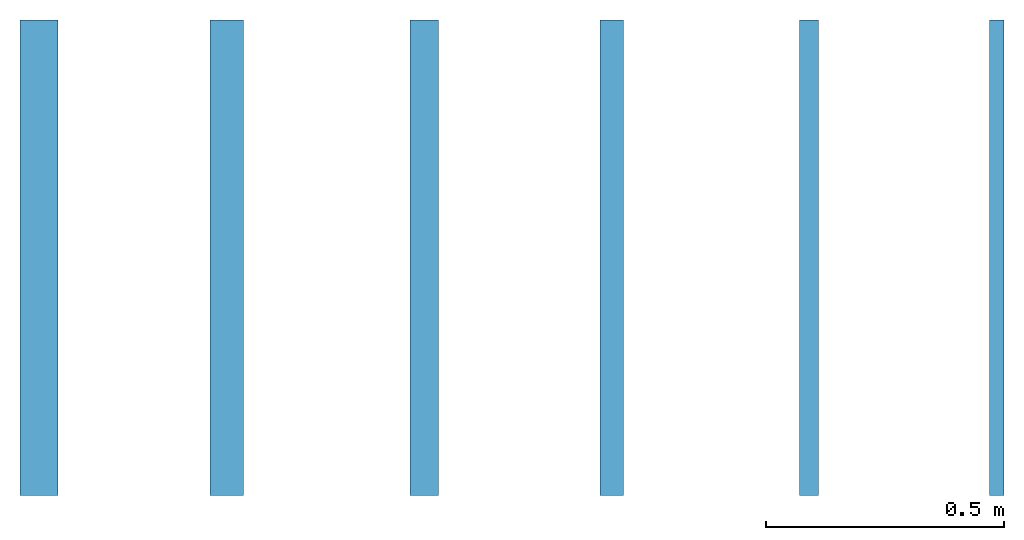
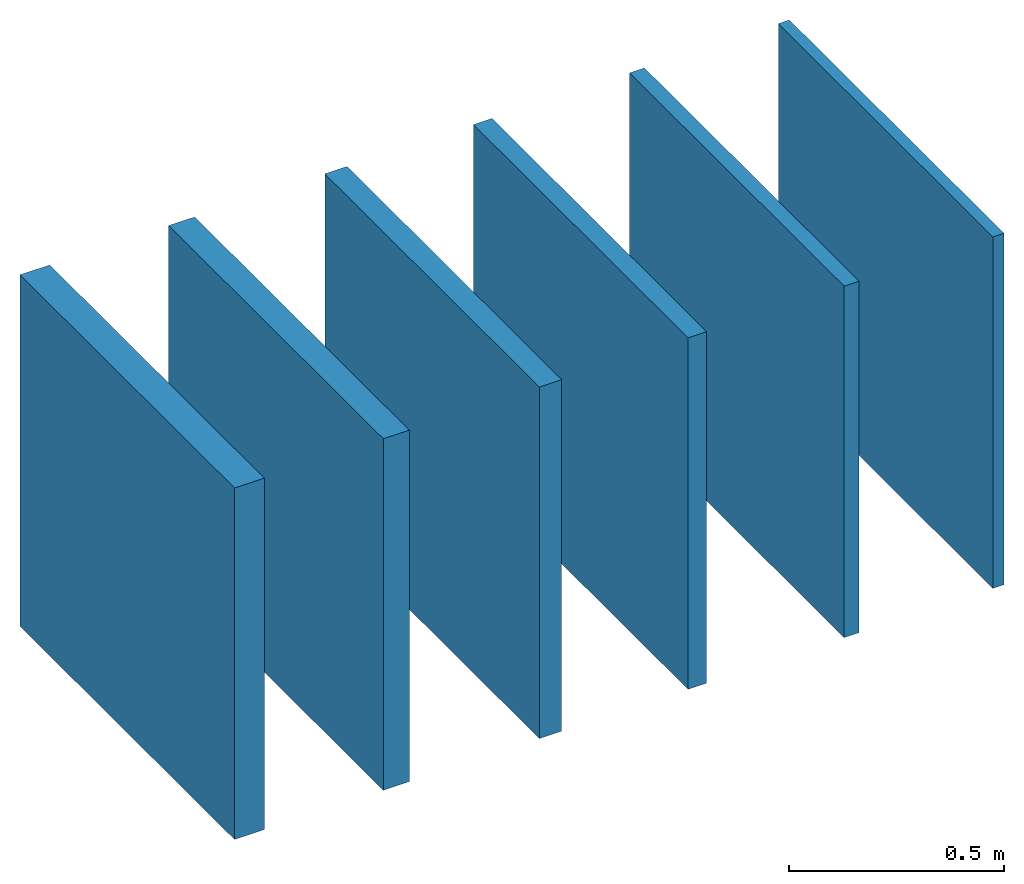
# One storey: 6 walls.
"""IFC2X3 building model written with IfcOpenShell, lengths in metres."""

from ifc_helpers import new_model, entity, si_unit, converted_unit, derived_unit, direction, frame, frame_2d, origin, place, context, subcontext, project, spatial, rectangle, extrude, material, layer, layer_set, layer_usage, type_object, element, save


model = new_model("IFC2X3")

# Units and contexts
model_context = context("Model", 3, precision=1e-05, world=origin(), true_north=direction((6.12303176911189e-17, 1.0)))
body_context = subcontext(model_context, "Body", "Model", "MODEL_VIEW")
ifc_project = project(units=[si_unit("LENGTHUNIT", "METRE"), si_unit("AREAUNIT", "SQUARE_METRE"), si_unit("VOLUMEUNIT", "CUBIC_METRE"), converted_unit("PLANEANGLEUNIT", "DEGREE", entity("IfcRatioMeasure", 0.0174532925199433), si_unit("PLANEANGLEUNIT", "RADIAN"), dimensions=[0, 0, 0, 0, 0, 0, 0]), si_unit("MASSUNIT", "GRAM", prefix="KILO"), derived_unit("MASSDENSITYUNIT", [(si_unit("MASSUNIT", "GRAM", prefix="KILO"), 1), (si_unit("LENGTHUNIT", "METRE"), -3)]), si_unit("TIMEUNIT", "SECOND"), si_unit("FREQUENCYUNIT", "HERTZ"), si_unit("THERMODYNAMICTEMPERATUREUNIT", "DEGREE_CELSIUS"), derived_unit("THERMALTRANSMITTANCEUNIT", [(si_unit("MASSUNIT", "GRAM", prefix="KILO"), 1), (si_unit("THERMODYNAMICTEMPERATUREUNIT", "KELVIN"), -1), (si_unit("TIMEUNIT", "SECOND"), -3)]), derived_unit("VOLUMETRICFLOWRATEUNIT", [(si_unit("LENGTHUNIT", "METRE"), 3), (si_unit("TIMEUNIT", "SECOND"), -1)]), si_unit("ELECTRICCURRENTUNIT", "AMPERE"), si_unit("ELECTRICVOLTAGEUNIT", "VOLT"), si_unit("POWERUNIT", "WATT"), si_unit("FORCEUNIT", "NEWTON", prefix="KILO"), si_unit("ILLUMINANCEUNIT", "LUX"), si_unit("LUMINOUSFLUXUNIT", "LUMEN"), si_unit("LUMINOUSINTENSITYUNIT", "CANDELA"), derived_unit("USERDEFINED", [(si_unit("MASSUNIT", "GRAM", prefix="KILO"), -1), (si_unit("LENGTHUNIT", "METRE"), -2), (si_unit("TIMEUNIT", "SECOND"), 3), (si_unit("LUMINOUSFLUXUNIT", "LUMEN"), 1)]), derived_unit("LINEARVELOCITYUNIT", [(si_unit("LENGTHUNIT", "METRE"), 1), (si_unit("TIMEUNIT", "SECOND"), -1)]), si_unit("PRESSUREUNIT", "PASCAL"), derived_unit("USERDEFINED", [(si_unit("LENGTHUNIT", "METRE"), -2), (si_unit("MASSUNIT", "GRAM", prefix="KILO"), 1), (si_unit("TIMEUNIT", "SECOND"), -2)])], contexts=[model_context])

# Site, building, storey
site_placement = place(None, origin())
site = spatial("IfcSite", under=ifc_project, at=site_placement, Name="Default", CompositionType="ELEMENT")
building_placement = place(site_placement, origin())
building = spatial("IfcBuilding", under=site, at=building_placement, CompositionType="ELEMENT")
storey_placement = place(building_placement, origin())
storey = spatial("IfcBuildingStorey", under=building, at=storey_placement, Name="Nivel 1", CompositionType="ELEMENT", Elevation=0.0)

# Walls
ifc_material = material(Name="VALERO Grafipol® TR-0")
ifc_layer_1 = layer(ifc_material, 0.04)
ifc_layer_set_1 = layer_set([ifc_layer_1], Name="Muro básico:Grafipol TR-0_1000x1000x40mm")
ifc_layer_usage_1 = layer_usage(ifc_layer_set_1, "AXIS2", "NEGATIVE", 0.02)
wall_type_1 = type_object("IfcWallType", Name="Muro básico:Grafipol TR-0_1000x1000x40mm", PredefinedType="STANDARD", material=ifc_layer_set_1)
wall_1_placement = place(storey_placement, frame((15.4623136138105, -5.66948009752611, 0.0), z_axis=(0.0, 0.0, 1.0), x_axis=(0.0, 1.0, 0.0)))
element("IfcWallStandardCase", 1, at=wall_1_placement, inside=storey, type_object=wall_type_1, material=ifc_layer_usage_1, Name="Muro básico:Grafipol TR-0_1000x1000x40mm", ObjectType="Muro básico:Grafipol TR-0_1000x1000x40mm", context=body_context, shape_type="SweptSolid", body=[
    extrude(rectangle(XDim=0.999999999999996, YDim=0.0399999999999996, at=frame_2d((0.499999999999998, -7.58074159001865e-16), x_axis=(-1.0, 0.0))), origin(), (0.0, 0.0, 1.0), 1.0),
])
ifc_layer_2 = layer(ifc_material, 0.03)
ifc_layer_set_2 = layer_set([ifc_layer_2], Name="Muro básico:Grafipol TR-0_1000x1000x30mm")
ifc_layer_usage_2 = layer_usage(ifc_layer_set_2, "AXIS2", "NEGATIVE", 0.015)
wall_type_2 = type_object("IfcWallType", Name="Muro básico:Grafipol TR-0_1000x1000x30mm", PredefinedType="STANDARD", material=ifc_layer_set_2)
wall_2_placement = place(storey_placement, frame((15.8573136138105, -5.66948009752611, 0.0), z_axis=(0.0, 0.0, 1.0), x_axis=(0.0, 1.0, 0.0)))
element("IfcWallStandardCase", 2, at=wall_2_placement, inside=storey, type_object=wall_type_2, material=ifc_layer_usage_2, Name="Muro básico:Grafipol TR-0_1000x1000x30mm", ObjectType="Muro básico:Grafipol TR-0_1000x1000x30mm", context=body_context, shape_type="SweptSolid", body=[
    extrude(rectangle(XDim=0.999999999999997, YDim=0.0300000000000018, at=frame_2d((0.499999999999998, -7.57206797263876e-16), x_axis=(-1.0, 0.0))), origin(), (0.0, 0.0, 1.0), 1.0),
])
ifc_layer_3 = layer(ifc_material, 0.06)
ifc_layer_set_3 = layer_set([ifc_layer_3], Name="Muro básico:Grafipol TR-0_1000x1000x60mm")
ifc_layer_usage_3 = layer_usage(ifc_layer_set_3, "AXIS2", "NEGATIVE", 0.03)
wall_type_3 = type_object("IfcWallType", Name="Muro básico:Grafipol TR-0_1000x1000x60mm", PredefinedType="STANDARD", material=ifc_layer_set_3)
wall_3_placement = place(storey_placement, frame((14.6523136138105, -5.66948009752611, 0.0), z_axis=(0.0, 0.0, 1.0), x_axis=(0.0, 1.0, 0.0)))
element("IfcWallStandardCase", 3, at=wall_3_placement, inside=storey, type_object=wall_type_3, material=ifc_layer_usage_3, Name="Muro básico:Grafipol TR-0_1000x1000x60mm", ObjectType="Muro básico:Grafipol TR-0_1000x1000x60mm", context=body_context, shape_type="SweptSolid", body=[
    extrude(rectangle(XDim=0.999999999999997, YDim=0.0599999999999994, at=frame_2d((0.499999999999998, -7.56339435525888e-16), x_axis=(-1.0, 0.0))), origin(), (0.0, 0.0, 1.0), 1.0),
])
ifc_layer_4 = layer(ifc_material, 0.05)
ifc_layer_set_4 = layer_set([ifc_layer_4], Name="Muro básico:Grafipol TR-0_1000x1000x50mm")
ifc_layer_usage_4 = layer_usage(ifc_layer_set_4, "AXIS2", "NEGATIVE", 0.025)
wall_type_4 = type_object("IfcWallType", Name="Muro básico:Grafipol TR-0_1000x1000x50mm", PredefinedType="STANDARD", material=ifc_layer_set_4)
wall_4_placement = place(storey_placement, frame((15.0473136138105, -5.66948009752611, 0.0), z_axis=(0.0, 0.0, 1.0), x_axis=(0.0, 1.0, 0.0)))
element("IfcWallStandardCase", 4, at=wall_4_placement, inside=storey, type_object=wall_type_4, material=ifc_layer_usage_4, Name="Muro básico:Grafipol TR-0_1000x1000x50mm", ObjectType="Muro básico:Grafipol TR-0_1000x1000x50mm", context=body_context, shape_type="SweptSolid", body=[
    extrude(rectangle(XDim=0.999999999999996, YDim=0.0500000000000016, at=frame_2d((0.499999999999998, -7.56339435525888e-16), x_axis=(-1.0, 0.0))), origin(), (0.0, 0.0, 1.0), 1.0),
])
ifc_layer_5 = layer(ifc_material, 0.08)
ifc_layer_set_5 = layer_set([ifc_layer_5], Name="Muro básico:Grafipol TR-0_1000x1000x80mm")
ifc_layer_usage_5 = layer_usage(ifc_layer_set_5, "AXIS2", "NEGATIVE", 0.04)
wall_type_5 = type_object("IfcWallType", Name="Muro básico:Grafipol TR-0_1000x1000x80mm", PredefinedType="STANDARD", material=ifc_layer_set_5)
wall_5_placement = place(storey_placement, frame((13.8423136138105, -5.66948009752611, 0.0), z_axis=(0.0, 0.0, 1.0), x_axis=(0.0, 1.0, 0.0)))
element("IfcWallStandardCase", 5, at=wall_5_placement, inside=storey, type_object=wall_type_5, material=ifc_layer_usage_5, Name="Muro básico:Grafipol TR-0_1000x1000x80mm", ObjectType="Muro básico:Grafipol TR-0_1000x1000x80mm", context=body_context, shape_type="SweptSolid", body=[
    extrude(rectangle(XDim=0.999999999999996, YDim=0.0799999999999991, at=frame_2d((0.499999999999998, -7.56339435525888e-16), x_axis=(-1.0, 0.0))), origin(), (0.0, 0.0, 1.0), 1.0),
])
ifc_layer_6 = layer(ifc_material, 0.07)
ifc_layer_set_6 = layer_set([ifc_layer_6], Name="Muro básico:Grafipol TR-0_1000x1000x70mm")
ifc_layer_usage_6 = layer_usage(ifc_layer_set_6, "AXIS2", "NEGATIVE", 0.035)
wall_type_6 = type_object("IfcWallType", Name="Muro básico:Grafipol TR-0_1000x1000x70mm", PredefinedType="STANDARD", material=ifc_layer_set_6)
wall_6_placement = place(storey_placement, frame((14.2373136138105, -5.66948009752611, 0.0), z_axis=(0.0, 0.0, 1.0), x_axis=(0.0, 1.0, 0.0)))
element("IfcWallStandardCase", 6, at=wall_6_placement, inside=storey, type_object=wall_type_6, material=ifc_layer_usage_6, Name="Muro básico:Grafipol TR-0_1000x1000x70mm", ObjectType="Muro básico:Grafipol TR-0_1000x1000x70mm", context=body_context, shape_type="SweptSolid", body=[
    extrude(rectangle(XDim=0.999999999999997, YDim=0.0700000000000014, at=frame_2d((0.499999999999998, -7.56339435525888e-16), x_axis=(-1.0, 0.0))), origin(), (0.0, 0.0, 1.0), 1.0),
])

save(model, "model.ifc")
